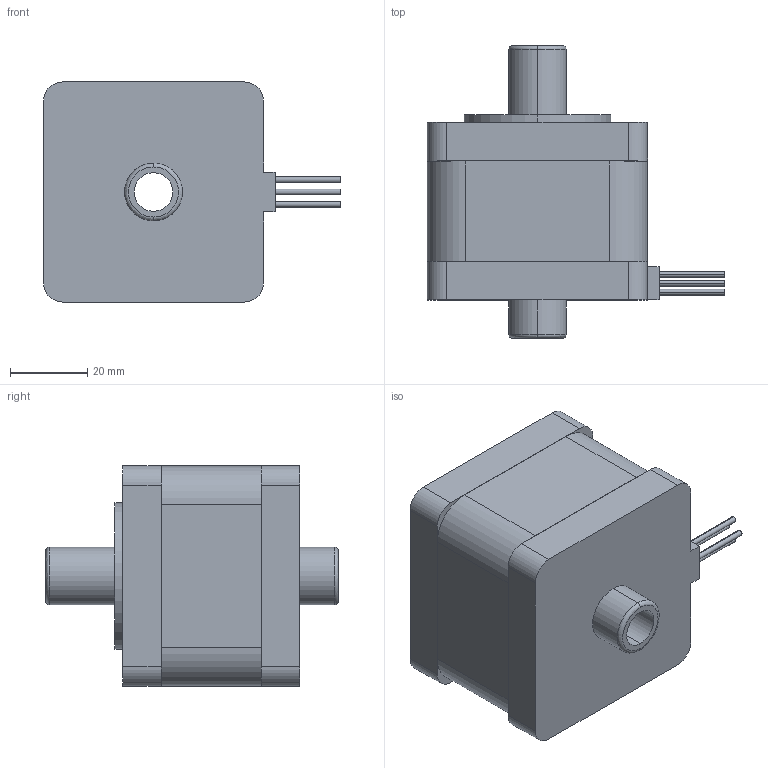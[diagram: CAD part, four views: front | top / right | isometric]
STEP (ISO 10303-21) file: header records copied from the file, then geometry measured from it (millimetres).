
FILE_DESCRIPTION (( 'STEP AP203' ), '1' );
FILE_NAME ('STCK-57D15-1456.STEP', '2019-10-12T07:46:32', ( 'China' ), ( 'Home' ), 'SwSTEP 2.0', 'SolidWorks 2016', '' );
FILE_SCHEMA (( 'CONFIG_CONTROL_DESIGN' ));
Length unit declared in the file: millimetre
Products named in the file (1): STCK-57D15-1456
Bounding box: 77.15 x 76 x 57.15 mm (x, y, z)
Volume: 148147.4 mm3; surface area: 34000.5 mm2
Topology: 3 solids, 3 shells, 104 faces, 246 edges, 156 vertices
Faces by surface type: cylinder 58, plane 34, cone 8, bspline 4
Entity records: 3289 total; most frequent: CARTESIAN_POINT 735, DIRECTION 556, ORIENTED_EDGE 476, EDGE_CURVE 238, AXIS2_PLACEMENT_3D 221, VERTEX_POINT 156, EDGE_LOOP 134, CIRCLE 120
